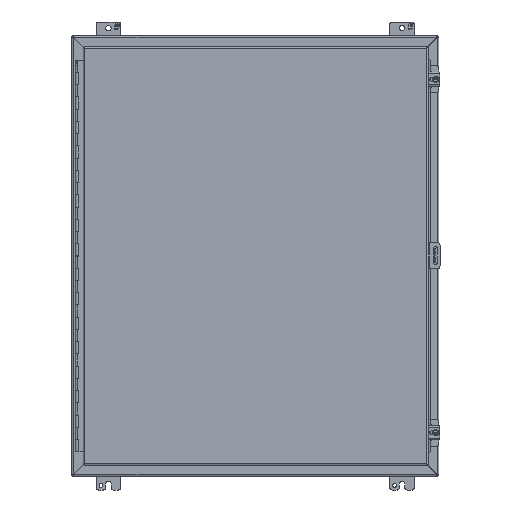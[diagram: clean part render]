
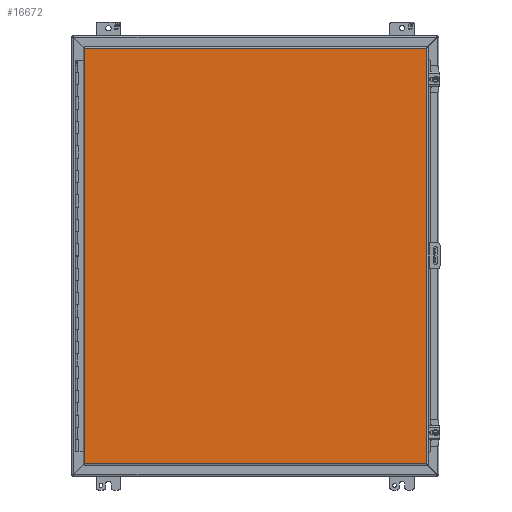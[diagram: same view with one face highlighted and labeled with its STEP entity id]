
A CAD part, front view. The second image highlights one B-rep face of the part: STEP entity #16672.
In plain terms, the highlighted planar face has unit normal (0, -1, 0).
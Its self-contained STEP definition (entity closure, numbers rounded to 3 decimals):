
#1198=LINE('',#25057,#2820);
#1199=LINE('',#25060,#2821);
#1200=LINE('',#25062,#2822);
#1201=LINE('',#25064,#2823);
#2820=VECTOR('',#20326,1000.);
#2821=VECTOR('',#20327,1000.);
#2822=VECTOR('',#20328,1000.);
#2823=VECTOR('',#20329,1000.);
#4938=ORIENTED_EDGE('',*,*,#9582,.T.);
#4939=ORIENTED_EDGE('',*,*,#9583,.T.);
#4940=ORIENTED_EDGE('',*,*,#9584,.T.);
#4941=ORIENTED_EDGE('',*,*,#9585,.T.);
#9582=EDGE_CURVE('',#11965,#11966,#1198,.T.);
#9583=EDGE_CURVE('',#11966,#11967,#1199,.T.);
#9584=EDGE_CURVE('',#11967,#11968,#1200,.T.);
#9585=EDGE_CURVE('',#11968,#11965,#1201,.T.);
#11965=VERTEX_POINT('',#25058);
#11966=VERTEX_POINT('',#25059);
#11967=VERTEX_POINT('',#25061);
#11968=VERTEX_POINT('',#25063);
#13904=EDGE_LOOP('',(#4938,#4939,#4940,#4941));
#14990=FACE_BOUND('',#13904,.T.);
#15990=PLANE('',#18419);
#16672=ADVANCED_FACE('',(#14990),#15990,.T.);
#18419=AXIS2_PLACEMENT_3D('',#25056,#20324,#20325);
#20324=DIRECTION('',(0.,-1.,0.));
#20325=DIRECTION('',(0.,0.,-1.));
#20326=DIRECTION('',(0.,0.,-1.));
#20327=DIRECTION('',(1.,0.,0.));
#20328=DIRECTION('',(0.,0.,1.));
#20329=DIRECTION('',(-1.,0.,0.));
#25056=CARTESIAN_POINT('',(-355.244,0.,-431.66));
#25057=CARTESIAN_POINT('',(-355.244,0.,431.66));
#25058=CARTESIAN_POINT('',(-355.244,0.,431.66));
#25059=CARTESIAN_POINT('',(-355.244,0.,-431.66));
#25060=CARTESIAN_POINT('',(-355.244,0.,-431.66));
#25061=CARTESIAN_POINT('',(355.244,0.,-431.66));
#25062=CARTESIAN_POINT('',(355.244,0.,-431.66));
#25063=CARTESIAN_POINT('',(355.244,0.,431.66));
#25064=CARTESIAN_POINT('',(355.244,0.,431.66));
